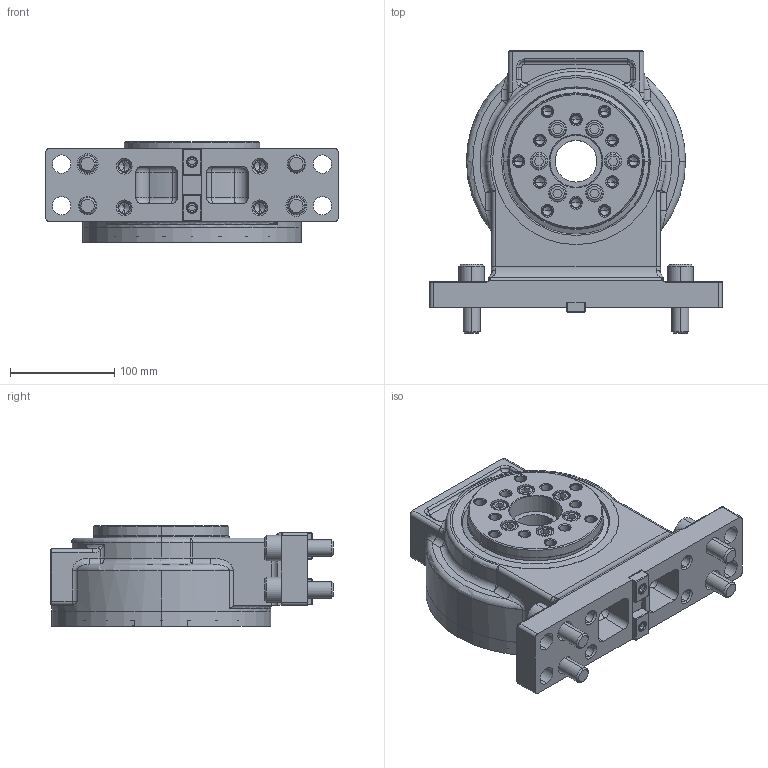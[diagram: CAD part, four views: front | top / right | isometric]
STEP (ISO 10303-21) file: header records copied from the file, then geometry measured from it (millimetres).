
FILE_DESCRIPTION (( 'STEP AP214' ), '1' );
FILE_NAME ('TSR142H.STEP', '2019-10-29T00:58:23', ( '' ), ( '' ), 'SwSTEP 2.0', 'SolidWorks 2017', '' );
FILE_SCHEMA (( 'AUTOMOTIVE_DESIGN' ));
Length unit declared in the file: millimetre
Products named in the file (8): 0030116050; TSR142Hホンタイ; ネームプレート(61E4736691); ガイドブロック(61M4197783); シリンダ(61E8049721)TSR142H; フェースプレート(61E3905731)TSR142A; ボデー(61E2546326)TSR142A; TSR142H
Assembly tree (11 placements, depth 3):
  TSR142H
    TSR142Hホンタイ
      ボデー(61E2546326)TSR142A
      フェースプレート(61E3905731)TSR142A
      シリンダ(61E8049721)TSR142H
      ガイドブロック(61M4197783)  x2
      ネームプレート(61E4736691)
    0030116050  x4
Bounding box: 280 x 271 x 96.5 mm (x, y, z)
Volume: 3419997 mm3; surface area: 374070.3 mm2
Topology: 10 solids, 10 shells, 2436 faces, 6335 edges, 4048 vertices
Faces by surface type: plane 1706, cylinder 409, cone 252, torus 45, bspline 14, sphere 10
Entity records: 78837 total; most frequent: CARTESIAN_POINT 13572, ORIENTED_EDGE 11942, DIRECTION 11531, EDGE_CURVE 5971, VECTOR 4907, LINE 4907, VERTEX_POINT 3877, AXIS2_PLACEMENT_3D 3312
